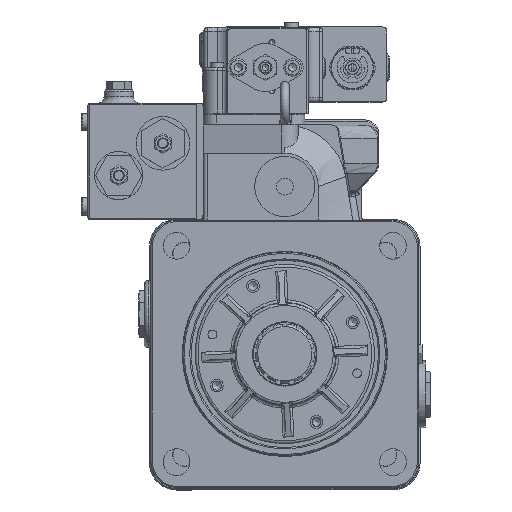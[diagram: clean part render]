
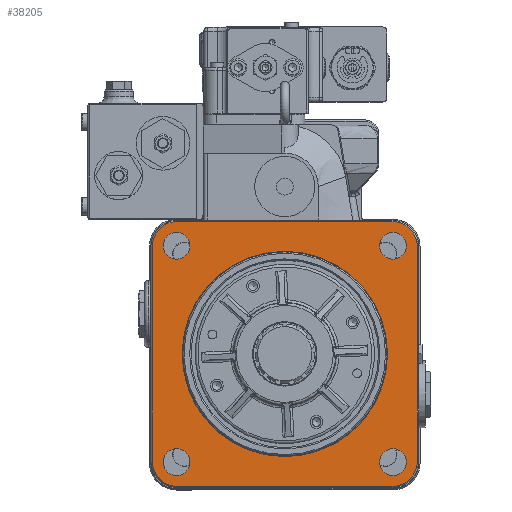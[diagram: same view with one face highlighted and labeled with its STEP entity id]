
A CAD part, top view. The second image highlights one B-rep face of the part: STEP entity #38205.
In plain terms, the highlighted planar face has unit normal (0, 0, 1).
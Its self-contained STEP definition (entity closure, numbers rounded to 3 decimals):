
#37971=CARTESIAN_POINT('',(76.6,0.,23.));
#37972=VERTEX_POINT('',#37971);
#37973=CARTESIAN_POINT('',(0.0,0.0,23.));
#37974=DIRECTION('',(0.0,0.0,1.0));
#37975=DIRECTION('',(-1.0,0.0,0.0));
#37976=AXIS2_PLACEMENT_3D('',#37973,#37974,#37975);
#37977=CIRCLE('',#37976,76.6);
#37978=EDGE_CURVE('',#37972,#37972,#37977,.T.);
#38083=CARTESIAN_POINT('',(0.,0.,23.));
#38084=DIRECTION('',(0.0,0.0,1.0));
#38085=DIRECTION('',(1.0,0.0,0.0));
#38086=AXIS2_PLACEMENT_3D('',#38083,#38084,#38085);
#38087=PLANE('',#38086);
#38088=CARTESIAN_POINT('',(-80.0,99.0,23.));
#38089=VERTEX_POINT('',#38088);
#38090=CARTESIAN_POINT('',(80.0,99.0,23.));
#38091=VERTEX_POINT('',#38090);
#38092=CARTESIAN_POINT('',(-80.0,99.0,23.));
#38093=DIRECTION('',(1.0,0.0,0.0));
#38094=VECTOR('',#38093,160.0);
#38095=LINE('',#38092,#38094);
#38096=EDGE_CURVE('',#38089,#38091,#38095,.T.);
#38097=ORIENTED_EDGE('',*,*,#38096,.F.);
#38098=CARTESIAN_POINT('',(-99.,80.0,23.));
#38099=VERTEX_POINT('',#38098);
#38100=CARTESIAN_POINT('',(-80.,80.,23.));
#38101=DIRECTION('',(0.0,0.0,-1.0));
#38102=DIRECTION('',(0.0,1.0,0.0));
#38103=AXIS2_PLACEMENT_3D('',#38100,#38101,#38102);
#38104=CIRCLE('',#38103,19.0);
#38105=EDGE_CURVE('',#38099,#38089,#38104,.T.);
#38106=ORIENTED_EDGE('',*,*,#38105,.F.);
#38107=CARTESIAN_POINT('',(-99.,-80.0,23.));
#38108=VERTEX_POINT('',#38107);
#38109=CARTESIAN_POINT('',(-99.,-80.0,23.));
#38110=DIRECTION('',(0.0,1.0,0.0));
#38111=VECTOR('',#38110,160.0);
#38112=LINE('',#38109,#38111);
#38113=EDGE_CURVE('',#38108,#38099,#38112,.T.);
#38114=ORIENTED_EDGE('',*,*,#38113,.F.);
#38115=CARTESIAN_POINT('',(-80.,-99.0,23.));
#38116=VERTEX_POINT('',#38115);
#38117=CARTESIAN_POINT('',(-80.,-80.,23.));
#38118=DIRECTION('',(0.0,0.0,-1.0));
#38119=DIRECTION('',(-1.0,0.0,0.0));
#38120=AXIS2_PLACEMENT_3D('',#38117,#38118,#38119);
#38121=CIRCLE('',#38120,19.);
#38122=EDGE_CURVE('',#38116,#38108,#38121,.T.);
#38123=ORIENTED_EDGE('',*,*,#38122,.F.);
#38124=CARTESIAN_POINT('',(80.,-99.,23.));
#38125=VERTEX_POINT('',#38124);
#38126=CARTESIAN_POINT('',(80.,-99.0,23.));
#38127=DIRECTION('',(-1.0,0.0,0.0));
#38128=VECTOR('',#38127,160.);
#38129=LINE('',#38126,#38128);
#38130=EDGE_CURVE('',#38125,#38116,#38129,.T.);
#38131=ORIENTED_EDGE('',*,*,#38130,.F.);
#38132=CARTESIAN_POINT('',(99.,-80.0,23.));
#38133=VERTEX_POINT('',#38132);
#38134=CARTESIAN_POINT('',(80.,-80.,23.));
#38135=DIRECTION('',(0.0,0.0,-1.0));
#38136=DIRECTION('',(0.0,-1.0,0.0));
#38137=AXIS2_PLACEMENT_3D('',#38134,#38135,#38136);
#38138=CIRCLE('',#38137,19.);
#38139=EDGE_CURVE('',#38133,#38125,#38138,.T.);
#38140=ORIENTED_EDGE('',*,*,#38139,.F.);
#38141=CARTESIAN_POINT('',(99.,80.0,23.));
#38142=VERTEX_POINT('',#38141);
#38143=CARTESIAN_POINT('',(99.0,80.0,23.));
#38144=DIRECTION('',(0.0,-1.0,0.0));
#38145=VECTOR('',#38144,160.0);
#38146=LINE('',#38143,#38145);
#38147=EDGE_CURVE('',#38142,#38133,#38146,.T.);
#38148=ORIENTED_EDGE('',*,*,#38147,.F.);
#38149=CARTESIAN_POINT('',(80.,80.,23.));
#38150=DIRECTION('',(0.0,0.0,-1.0));
#38151=DIRECTION('',(1.0,0.0,0.0));
#38152=AXIS2_PLACEMENT_3D('',#38149,#38150,#38151);
#38153=CIRCLE('',#38152,19.0);
#38154=EDGE_CURVE('',#38091,#38142,#38153,.T.);
#38155=ORIENTED_EDGE('',*,*,#38154,.F.);
#38156=EDGE_LOOP('',(#38097,#38106,#38114,#38123,#38131,#38140,#38148,#38155));
#38157=FACE_OUTER_BOUND('',#38156,.T.);
#38158=CARTESIAN_POINT('',(90.8,-80.8,23.));
#38159=VERTEX_POINT('',#38158);
#38160=CARTESIAN_POINT('',(80.8,-80.8,23.));
#38161=DIRECTION('',(0.0,0.0,-1.0));
#38162=DIRECTION('',(-1.0,0.0,0.0));
#38163=AXIS2_PLACEMENT_3D('',#38160,#38161,#38162);
#38164=CIRCLE('',#38163,10.0);
#38165=EDGE_CURVE('',#38159,#38159,#38164,.T.);
#38166=ORIENTED_EDGE('',*,*,#38165,.T.);
#38167=EDGE_LOOP('',(#38166));
#38168=FACE_BOUND('',#38167,.T.);
#38169=CARTESIAN_POINT('',(-70.8,80.8,23.));
#38170=VERTEX_POINT('',#38169);
#38171=CARTESIAN_POINT('',(-80.8,80.8,23.));
#38172=DIRECTION('',(0.0,0.0,-1.0));
#38173=DIRECTION('',(-1.0,0.0,0.0));
#38174=AXIS2_PLACEMENT_3D('',#38171,#38172,#38173);
#38175=CIRCLE('',#38174,10.0);
#38176=EDGE_CURVE('',#38170,#38170,#38175,.T.);
#38177=ORIENTED_EDGE('',*,*,#38176,.T.);
#38178=EDGE_LOOP('',(#38177));
#38179=FACE_BOUND('',#38178,.T.);
#38180=CARTESIAN_POINT('',(90.8,80.8,23.));
#38181=VERTEX_POINT('',#38180);
#38182=CARTESIAN_POINT('',(80.8,80.8,23.));
#38183=DIRECTION('',(0.0,0.0,-1.0));
#38184=DIRECTION('',(-1.0,0.0,0.0));
#38185=AXIS2_PLACEMENT_3D('',#38182,#38183,#38184);
#38186=CIRCLE('',#38185,10.0);
#38187=EDGE_CURVE('',#38181,#38181,#38186,.T.);
#38188=ORIENTED_EDGE('',*,*,#38187,.T.);
#38189=EDGE_LOOP('',(#38188));
#38190=FACE_BOUND('',#38189,.T.);
#38191=CARTESIAN_POINT('',(-70.8,-80.8,23.));
#38192=VERTEX_POINT('',#38191);
#38193=CARTESIAN_POINT('',(-80.8,-80.8,23.));
#38194=DIRECTION('',(0.0,0.0,-1.0));
#38195=DIRECTION('',(-1.0,0.0,0.0));
#38196=AXIS2_PLACEMENT_3D('',#38193,#38194,#38195);
#38197=CIRCLE('',#38196,10.0);
#38198=EDGE_CURVE('',#38192,#38192,#38197,.T.);
#38199=ORIENTED_EDGE('',*,*,#38198,.T.);
#38200=EDGE_LOOP('',(#38199));
#38201=FACE_BOUND('',#38200,.T.);
#38202=ORIENTED_EDGE('',*,*,#37978,.F.);
#38203=EDGE_LOOP('',(#38202));
#38204=FACE_BOUND('',#38203,.T.);
#38205=ADVANCED_FACE('',(#38157,#38168,#38179,#38190,#38201,#38204),#38087,.T.);
